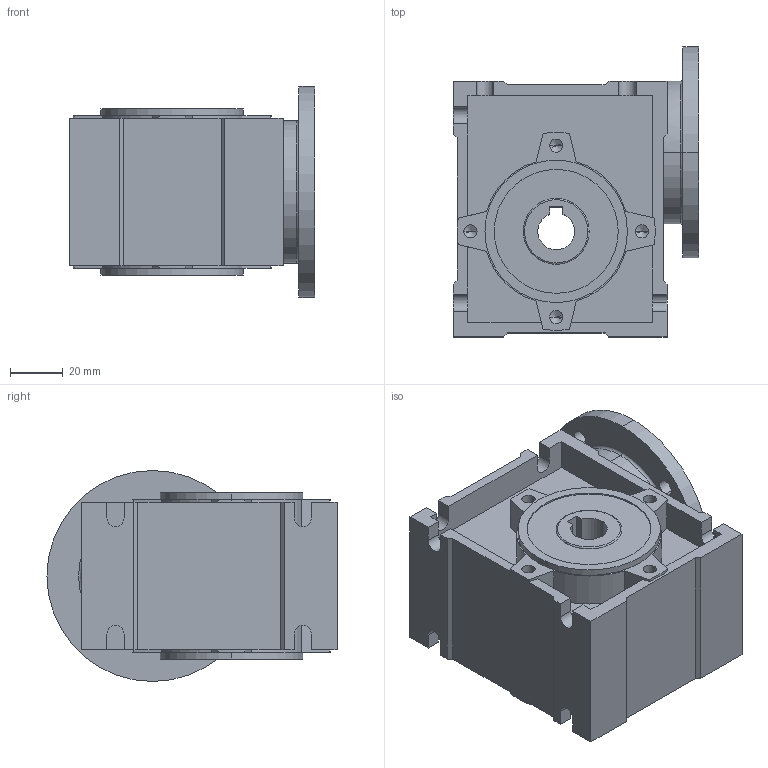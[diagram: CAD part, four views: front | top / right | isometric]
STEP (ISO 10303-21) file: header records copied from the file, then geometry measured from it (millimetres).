
FILE_DESCRIPTION (( 'STEP AP203' ), '1' );
FILE_NAME ('NMRV30-56b14.STEP', '2016-11-23T07:42:33', ( '微软中国' ), ( '微软中国' ), 'SwSTEP 2.0', 'SolidWorks 2012', '' );
FILE_SCHEMA (( 'CONFIG_CONTROL_DESIGN' ));
Length unit declared in the file: millimetre
Products named in the file (1): NMRV30-56b14
Bounding box: 93 x 110 x 80 mm (x, y, z)
Volume: 378831 mm3; surface area: 63139.2 mm2
Topology: 1 solids, 1 shells, 216 faces, 582 edges, 372 vertices
Faces by surface type: plane 111, cylinder 81, cone 18, torus 6
Entity records: 6763 total; most frequent: DIRECTION 1182, CARTESIAN_POINT 1161, ORIENTED_EDGE 1132, EDGE_CURVE 566, AXIS2_PLACEMENT_3D 401, VECTOR 380, LINE 380, VERTEX_POINT 372
